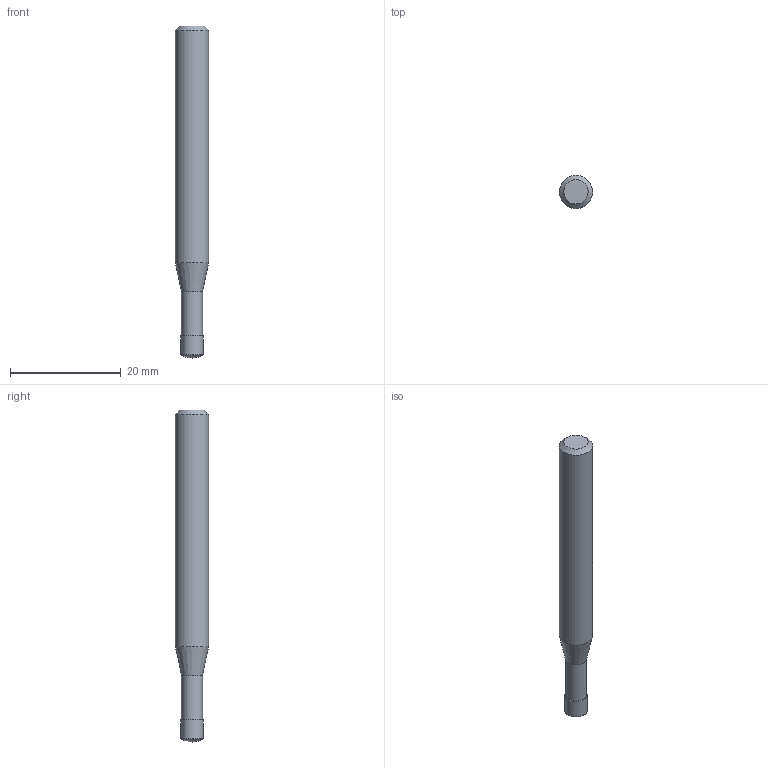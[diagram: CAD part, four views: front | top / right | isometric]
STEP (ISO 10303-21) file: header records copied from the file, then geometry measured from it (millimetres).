
FILE_DESCRIPTION((''),'2;1');
FILE_NAME('C:\Users\nsx150\AppData\Local\Temp\Mastercam 2022\ZJNICECW0E\TEMP.stp','2023-10-12T14:26:38',(''),(''),'STEP Write','Mastercam 2022 ... CNC Software, Inc.','');
FILE_SCHEMA(('AUTOMOTIVE_DESIGN'));
Length unit declared in the file: millimetre
Products named in the file (1): None
Bounding box: 6 x 6 x 60 mm (x, y, z)
Volume: 1442.3 mm3; surface area: 1083.6 mm2
Topology: 2 solids, 2 shells, 11 faces, 18 edges, 11 vertices
Faces by surface type: plane 4, cylinder 3, cone 2, torus 1, sphere 1
Full cylindrical faces by diameter (mm): 3.8 x1, 4 x1, 6 x1
Entity records: 253 total; most frequent: DIRECTION 44, CARTESIAN_POINT 31, AXIS2_PLACEMENT_3D 22, ORIENTED_EDGE 18, EDGE_LOOP 18, STYLED_ITEM 14, FACE_BOUND 11, ADVANCED_FACE 11
